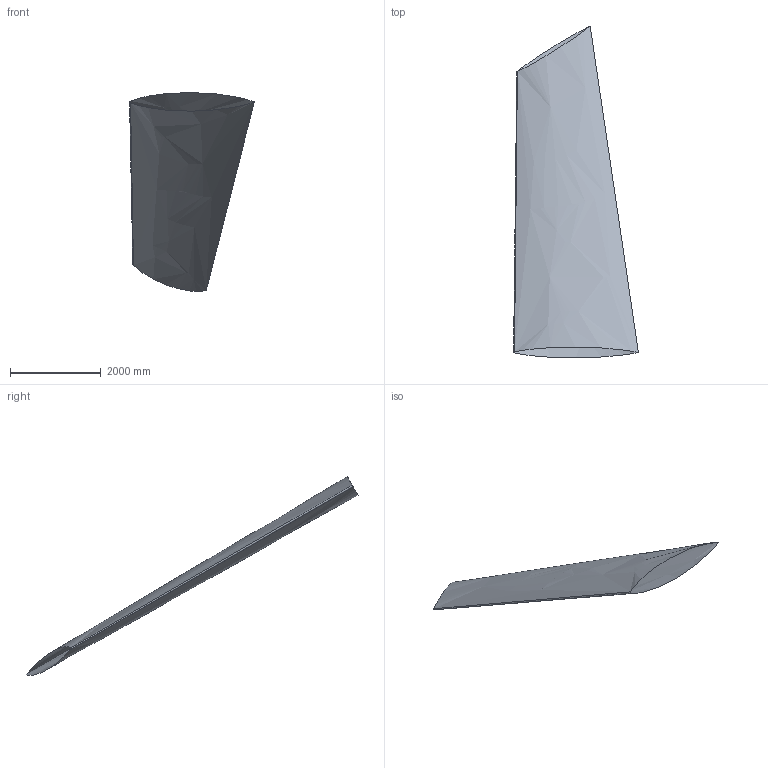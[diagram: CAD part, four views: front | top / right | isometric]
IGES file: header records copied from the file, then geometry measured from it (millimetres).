
Start section: START RECORD GO HERE.
Global section: file name: Vinge 2011-05-02.igs; native system: DASSAULT SYSTEMES CATIA V5 R19 - www.3ds.com; preprocessor: CATIA Version 5 Release 19 SP 6 ; author: a72195; organization: DATASERVICE; date: 20110502.150407; units: millimetre
Bounding box: 2755.7 x 7327.96 x 4388.34 mm (x, y, z)
Surface area: 35300533 mm2 (no closed solid volume)
Topology: 0 solids, 0 shells, 3 faces, 30 edges, 290 vertices
Faces by surface type: bspline 3
